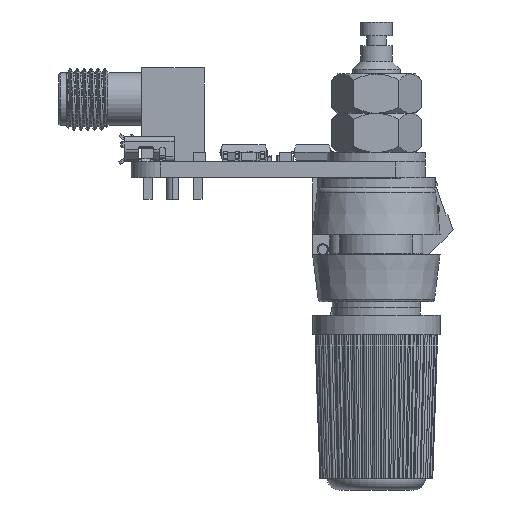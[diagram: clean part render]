
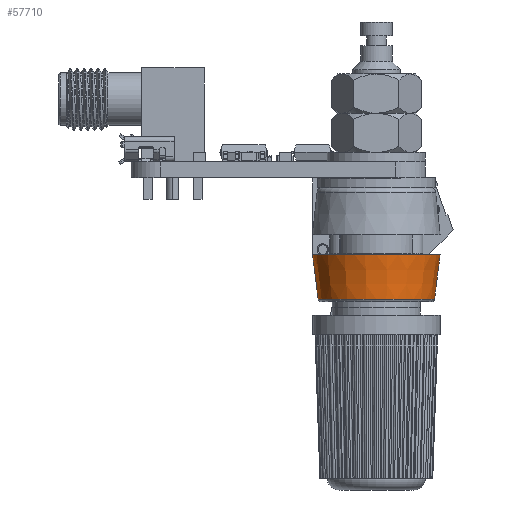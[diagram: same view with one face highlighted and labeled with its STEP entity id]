
A CAD part, left-side view. The second image highlights one B-rep face of the part: STEP entity #57710.
In plain terms, the highlighted conical face has half-angle 7.125 degrees and reference radius 5.9 mm.
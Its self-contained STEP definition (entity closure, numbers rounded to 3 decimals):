
#57500 = PLANE('',#57501);
#57501 = AXIS2_PLACEMENT_3D('',#57502,#57503,#57504);
#57502 = CARTESIAN_POINT('',(7.8,6.5,0.));
#57503 = DIRECTION('',(-1.,0.,0.));
#57504 = DIRECTION('',(0.,-1.,0.));
#57650 = EDGE_CURVE('',#57651,#57653,#57655,.T.);
#57651 = VERTEX_POINT('',#57652);
#57652 = CARTESIAN_POINT('',(7.8,-6.5,0.));
#57653 = VERTEX_POINT('',#57654);
#57654 = CARTESIAN_POINT('',(7.8,6.5,0.));
#57655 = SURFACE_CURVE('',#57656,(#57661,#57672),.PCURVE_S1.);
#57656 = CIRCLE('',#57657,6.5);
#57657 = AXIS2_PLACEMENT_3D('',#57658,#57659,#57660);
#57658 = CARTESIAN_POINT('',(7.8,0.,0.));
#57659 = DIRECTION('',(1.,0.,-0.));
#57660 = DIRECTION('',(0.,1.,0.));
#57661 = PCURVE('',#57500,#57662);
#57662 = DEFINITIONAL_REPRESENTATION('',(#57663),#57671);
#57663 = ( BOUNDED_CURVE() B_SPLINE_CURVE(2,(#57664,#57665,#57666,#57667
    ,#57668,#57669,#57670),.UNSPECIFIED.,.F.,.F.) 
B_SPLINE_CURVE_WITH_KNOTS((1,2,2,2,2,1),(-2.094,0.,
    2.094,4.189,6.283,8.378),
.UNSPECIFIED.) CURVE() GEOMETRIC_REPRESENTATION_ITEM() 
RATIONAL_B_SPLINE_CURVE((1.,0.5,1.,0.5,1.,0.5,1.)) REPRESENTATION_ITEM(
  '') );
#57664 = CARTESIAN_POINT('',(0.,0.));
#57665 = CARTESIAN_POINT('',(0.,11.258));
#57666 = CARTESIAN_POINT('',(9.75,5.629));
#57667 = CARTESIAN_POINT('',(19.5,0.));
#57668 = CARTESIAN_POINT('',(9.75,-5.629));
#57669 = CARTESIAN_POINT('',(0.,-11.258));
#57670 = CARTESIAN_POINT('',(0.,0.));
#57671 = ( GEOMETRIC_REPRESENTATION_CONTEXT(2) 
PARAMETRIC_REPRESENTATION_CONTEXT() REPRESENTATION_CONTEXT('2D SPACE',''
  ) );
#57672 = PCURVE('',#57673,#57678);
#57673 = CONICAL_SURFACE('',#57674,5.9,0.124);
#57674 = AXIS2_PLACEMENT_3D('',#57675,#57676,#57677);
#57675 = CARTESIAN_POINT('',(12.6,0.,0.));
#57676 = DIRECTION('',(-1.,0.,0.));
#57677 = DIRECTION('',(0.,-1.,0.));
#57678 = DEFINITIONAL_REPRESENTATION('',(#57679),#57683);
#57679 = LINE('',#57680,#57681);
#57680 = CARTESIAN_POINT('',(9.425,4.8));
#57681 = VECTOR('',#57682,1.);
#57682 = DIRECTION('',(-1.,0.));
#57683 = ( GEOMETRIC_REPRESENTATION_CONTEXT(2) 
PARAMETRIC_REPRESENTATION_CONTEXT() REPRESENTATION_CONTEXT('2D SPACE',''
  ) );
#57685 = EDGE_CURVE('',#57653,#57651,#57686,.T.);
#57686 = SURFACE_CURVE('',#57687,(#57692,#57703),.PCURVE_S1.);
#57687 = CIRCLE('',#57688,6.5);
#57688 = AXIS2_PLACEMENT_3D('',#57689,#57690,#57691);
#57689 = CARTESIAN_POINT('',(7.8,0.,0.));
#57690 = DIRECTION('',(1.,0.,-0.));
#57691 = DIRECTION('',(0.,1.,0.));
#57692 = PCURVE('',#57500,#57693);
#57693 = DEFINITIONAL_REPRESENTATION('',(#57694),#57702);
#57694 = ( BOUNDED_CURVE() B_SPLINE_CURVE(2,(#57695,#57696,#57697,#57698
    ,#57699,#57700,#57701),.UNSPECIFIED.,.F.,.F.) 
B_SPLINE_CURVE_WITH_KNOTS((1,2,2,2,2,1),(-2.094,0.,
    2.094,4.189,6.283,8.378),
.UNSPECIFIED.) CURVE() GEOMETRIC_REPRESENTATION_ITEM() 
RATIONAL_B_SPLINE_CURVE((1.,0.5,1.,0.5,1.,0.5,1.)) REPRESENTATION_ITEM(
  '') );
#57695 = CARTESIAN_POINT('',(0.,0.));
#57696 = CARTESIAN_POINT('',(0.,11.258));
#57697 = CARTESIAN_POINT('',(9.75,5.629));
#57698 = CARTESIAN_POINT('',(19.5,0.));
#57699 = CARTESIAN_POINT('',(9.75,-5.629));
#57700 = CARTESIAN_POINT('',(0.,-11.258));
#57701 = CARTESIAN_POINT('',(0.,0.));
#57702 = ( GEOMETRIC_REPRESENTATION_CONTEXT(2) 
PARAMETRIC_REPRESENTATION_CONTEXT() REPRESENTATION_CONTEXT('2D SPACE',''
  ) );
#57703 = PCURVE('',#57673,#57704);
#57704 = DEFINITIONAL_REPRESENTATION('',(#57705),#57709);
#57705 = LINE('',#57706,#57707);
#57706 = CARTESIAN_POINT('',(3.142,4.8));
#57707 = VECTOR('',#57708,1.);
#57708 = DIRECTION('',(-1.,0.));
#57709 = ( GEOMETRIC_REPRESENTATION_CONTEXT(2) 
PARAMETRIC_REPRESENTATION_CONTEXT() REPRESENTATION_CONTEXT('2D SPACE',''
  ) );
#57710 = ADVANCED_FACE('',(#57711),#57673,.T.);
#57711 = FACE_BOUND('',#57712,.T.);
#57712 = EDGE_LOOP('',(#57713,#57736,#57765,#57787,#57788,#57789));
#57713 = ORIENTED_EDGE('',*,*,#57714,.T.);
#57714 = EDGE_CURVE('',#57651,#57715,#57717,.T.);
#57715 = VERTEX_POINT('',#57716);
#57716 = CARTESIAN_POINT('',(12.381,-5.927,0.));
#57717 = SEAM_CURVE('',#57718,(#57722,#57729),.PCURVE_S1.);
#57718 = LINE('',#57719,#57720);
#57719 = CARTESIAN_POINT('',(7.8,-6.5,0.));
#57720 = VECTOR('',#57721,1.);
#57721 = DIRECTION('',(0.992,0.124,0.));
#57722 = PCURVE('',#57673,#57723);
#57723 = DEFINITIONAL_REPRESENTATION('',(#57724),#57728);
#57724 = LINE('',#57725,#57726);
#57725 = CARTESIAN_POINT('',(0.,4.8));
#57726 = VECTOR('',#57727,1.);
#57727 = DIRECTION('',(0.,-1.));
#57728 = ( GEOMETRIC_REPRESENTATION_CONTEXT(2) 
PARAMETRIC_REPRESENTATION_CONTEXT() REPRESENTATION_CONTEXT('2D SPACE',''
  ) );
#57729 = PCURVE('',#57673,#57730);
#57730 = DEFINITIONAL_REPRESENTATION('',(#57731),#57735);
#57731 = LINE('',#57732,#57733);
#57732 = CARTESIAN_POINT('',(6.283,4.8));
#57733 = VECTOR('',#57734,1.);
#57734 = DIRECTION('',(0.,-1.));
#57735 = ( GEOMETRIC_REPRESENTATION_CONTEXT(2) 
PARAMETRIC_REPRESENTATION_CONTEXT() REPRESENTATION_CONTEXT('2D SPACE',''
  ) );
#57736 = ORIENTED_EDGE('',*,*,#57737,.T.);
#57737 = EDGE_CURVE('',#57715,#57738,#57740,.T.);
#57738 = VERTEX_POINT('',#57739);
#57739 = CARTESIAN_POINT('',(12.381,5.927,0.));
#57740 = SURFACE_CURVE('',#57741,(#57746,#57753),.PCURVE_S1.);
#57741 = CIRCLE('',#57742,5.927);
#57742 = AXIS2_PLACEMENT_3D('',#57743,#57744,#57745);
#57743 = CARTESIAN_POINT('',(12.381,0.,0.));
#57744 = DIRECTION('',(-1.,0.,-0.));
#57745 = DIRECTION('',(0.,1.,0.));
#57746 = PCURVE('',#57673,#57747);
#57747 = DEFINITIONAL_REPRESENTATION('',(#57748),#57752);
#57748 = LINE('',#57749,#57750);
#57749 = CARTESIAN_POINT('',(-3.142,0.219));
#57750 = VECTOR('',#57751,1.);
#57751 = DIRECTION('',(1.,0.));
#57752 = ( GEOMETRIC_REPRESENTATION_CONTEXT(2) 
PARAMETRIC_REPRESENTATION_CONTEXT() REPRESENTATION_CONTEXT('2D SPACE',''
  ) );
#57753 = PCURVE('',#57754,#57759);
#57754 = TOROIDAL_SURFACE('',#57755,5.679,0.25);
#57755 = AXIS2_PLACEMENT_3D('',#57756,#57757,#57758);
#57756 = CARTESIAN_POINT('',(12.35,0.,0.));
#57757 = DIRECTION('',(1.,0.,0.));
#57758 = DIRECTION('',(0.,1.,0.));
#57759 = DEFINITIONAL_REPRESENTATION('',(#57760),#57764);
#57760 = LINE('',#57761,#57762);
#57761 = CARTESIAN_POINT('',(6.283,0.124));
#57762 = VECTOR('',#57763,1.);
#57763 = DIRECTION('',(-1.,0.));
#57764 = ( GEOMETRIC_REPRESENTATION_CONTEXT(2) 
PARAMETRIC_REPRESENTATION_CONTEXT() REPRESENTATION_CONTEXT('2D SPACE',''
  ) );
#57765 = ORIENTED_EDGE('',*,*,#57766,.T.);
#57766 = EDGE_CURVE('',#57738,#57715,#57767,.T.);
#57767 = SURFACE_CURVE('',#57768,(#57773,#57780),.PCURVE_S1.);
#57768 = CIRCLE('',#57769,5.927);
#57769 = AXIS2_PLACEMENT_3D('',#57770,#57771,#57772);
#57770 = CARTESIAN_POINT('',(12.381,0.,0.));
#57771 = DIRECTION('',(-1.,0.,-0.));
#57772 = DIRECTION('',(0.,1.,0.));
#57773 = PCURVE('',#57673,#57774);
#57774 = DEFINITIONAL_REPRESENTATION('',(#57775),#57779);
#57775 = LINE('',#57776,#57777);
#57776 = CARTESIAN_POINT('',(3.142,0.219));
#57777 = VECTOR('',#57778,1.);
#57778 = DIRECTION('',(1.,0.));
#57779 = ( GEOMETRIC_REPRESENTATION_CONTEXT(2) 
PARAMETRIC_REPRESENTATION_CONTEXT() REPRESENTATION_CONTEXT('2D SPACE',''
  ) );
#57780 = PCURVE('',#57754,#57781);
#57781 = DEFINITIONAL_REPRESENTATION('',(#57782),#57786);
#57782 = LINE('',#57783,#57784);
#57783 = CARTESIAN_POINT('',(6.283,0.124));
#57784 = VECTOR('',#57785,1.);
#57785 = DIRECTION('',(-1.,0.));
#57786 = ( GEOMETRIC_REPRESENTATION_CONTEXT(2) 
PARAMETRIC_REPRESENTATION_CONTEXT() REPRESENTATION_CONTEXT('2D SPACE',''
  ) );
#57787 = ORIENTED_EDGE('',*,*,#57714,.F.);
#57788 = ORIENTED_EDGE('',*,*,#57650,.T.);
#57789 = ORIENTED_EDGE('',*,*,#57685,.T.);
